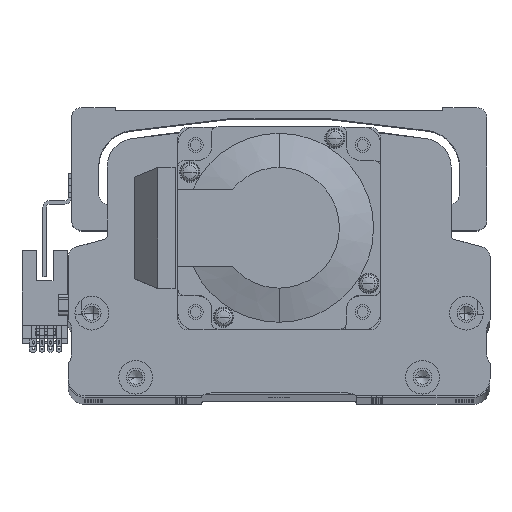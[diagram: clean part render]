
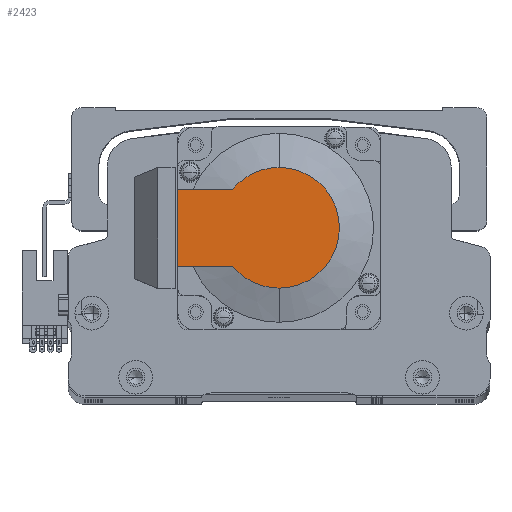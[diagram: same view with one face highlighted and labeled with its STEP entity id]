
A CAD part, top view. The second image highlights one B-rep face of the part: STEP entity #2423.
In plain terms, the highlighted planar face has unit normal (0, 0, 1) as drawn and (-1, 0, 0) by its records, which use the part's own axes.
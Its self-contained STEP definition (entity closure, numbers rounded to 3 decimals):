
#475 = VERTEX_POINT ( 'NONE', #58826 ) ;
#1316 = DIRECTION ( 'NONE',  ( 0., 0., 1. ) ) ;
#1521 = DIRECTION ( 'NONE',  ( -1., 0., 0. ) ) ;
#1760 = EDGE_LOOP ( 'NONE', ( #28324, #12945, #44090, #28004, #46014, #36811 ) ) ;
#1912 = CARTESIAN_POINT ( 'NONE',  ( -118.5, -8.941, 0. ) ) ;
#2423 = ADVANCED_FACE ( 'NONE', ( #23772 ), #7297, .T. ) ;
#5800 = DIRECTION ( 'NONE',  ( 0., -1., 0. ) ) ;
#5975 = DIRECTION ( 'NONE',  ( 0., -1., 0. ) ) ;
#6340 = DIRECTION ( 'NONE',  ( 0., 0., 1. ) ) ;
#7297 = PLANE ( 'NONE',  #15746 ) ;
#7949 = CARTESIAN_POINT ( 'NONE',  ( -118.5, 0., 0. ) ) ;
#7971 = EDGE_CURVE ( 'NONE', #18945, #38739, #35308, .T. ) ;
#10417 = CARTESIAN_POINT ( 'NONE',  ( -118.5, 0., 0. ) ) ;
#10660 = CARTESIAN_POINT ( 'NONE',  ( -118.5, 0., 0. ) ) ;
#12183 = EDGE_CURVE ( 'NONE', #18945, #475, #14760, .T. ) ;
#12501 = DIRECTION ( 'NONE',  ( 0., 0., -1. ) ) ;
#12945 = ORIENTED_EDGE ( 'NONE', *, *, #58574, .T. ) ;
#14760 = LINE ( 'NONE', #33176, #38870 ) ;
#15001 = DIRECTION ( 'NONE',  ( 0., 0., -1. ) ) ;
#15226 = DIRECTION ( 'NONE',  ( 0., 0., -1. ) ) ;
#15746 = AXIS2_PLACEMENT_3D ( 'NONE', #1912, #1521, #1316 ) ;
#18623 = EDGE_CURVE ( 'NONE', #43822, #41539, #27024, .T. ) ;
#18945 = VERTEX_POINT ( 'NONE', #45618 ) ;
#19256 = AXIS2_PLACEMENT_3D ( 'NONE', #10417, #42143, #15001 ) ;
#23772 = FACE_OUTER_BOUND ( 'NONE', #1760, .T. ) ;
#24643 = CARTESIAN_POINT ( 'NONE',  ( -118.5, 30., 11.45 ) ) ;
#25674 = CIRCLE ( 'NONE', #19256, 17.881 ) ;
#27024 = CIRCLE ( 'NONE', #43010, 17.881 ) ;
#27777 = VECTOR ( 'NONE', #5800, 1000. ) ;
#28004 = ORIENTED_EDGE ( 'NONE', *, *, #18623, .T. ) ;
#28324 = ORIENTED_EDGE ( 'NONE', *, *, #12183, .T. ) ;
#33176 = CARTESIAN_POINT ( 'NONE',  ( -118.5, -8.941, -11.45 ) ) ;
#33890 = VECTOR ( 'NONE', #6340, 1000. ) ;
#34911 = AXIS2_PLACEMENT_3D ( 'NONE', #7949, #39683, #12501 ) ;
#35308 = LINE ( 'NONE', #44569, #33890 ) ;
#36811 = ORIENTED_EDGE ( 'NONE', *, *, #7971, .F. ) ;
#37362 = CARTESIAN_POINT ( 'NONE',  ( -118.5, 0., 11.45 ) ) ;
#38070 = CARTESIAN_POINT ( 'NONE',  ( -118.5, 0., 17.881 ) ) ;
#38642 = EDGE_CURVE ( 'NONE', #38739, #41539, #51915, .T. ) ;
#38739 = VERTEX_POINT ( 'NONE', #24643 ) ;
#38870 = VECTOR ( 'NONE', #5975, 1000. ) ;
#39683 = DIRECTION ( 'NONE',  ( -1., 0., 0. ) ) ;
#41539 = VERTEX_POINT ( 'NONE', #51386 ) ;
#42143 = DIRECTION ( 'NONE',  ( -1., 0., 0. ) ) ;
#42379 = DIRECTION ( 'NONE',  ( -1., 0., 0. ) ) ;
#43010 = AXIS2_PLACEMENT_3D ( 'NONE', #10660, #42379, #15226 ) ;
#43822 = VERTEX_POINT ( 'NONE', #38070 ) ;
#44090 = ORIENTED_EDGE ( 'NONE', *, *, #55023, .T. ) ;
#44569 = CARTESIAN_POINT ( 'NONE',  ( -118.5, 30., 25. ) ) ;
#45099 = VERTEX_POINT ( 'NONE', #56895 ) ;
#45618 = CARTESIAN_POINT ( 'NONE',  ( -118.5, 30., -11.45 ) ) ;
#46014 = ORIENTED_EDGE ( 'NONE', *, *, #38642, .F. ) ;
#51386 = CARTESIAN_POINT ( 'NONE',  ( -118.5, 13.735, 11.45 ) ) ;
#51915 = LINE ( 'NONE', #37362, #27777 ) ;
#55023 = EDGE_CURVE ( 'NONE', #45099, #43822, #58184, .T. ) ;
#56895 = CARTESIAN_POINT ( 'NONE',  ( -118.5, 0., -17.881 ) ) ;
#58184 = CIRCLE ( 'NONE', #34911, 17.881 ) ;
#58574 = EDGE_CURVE ( 'NONE', #475, #45099, #25674, .T. ) ;
#58826 = CARTESIAN_POINT ( 'NONE',  ( -118.5, 13.735, -11.45 ) ) ;
